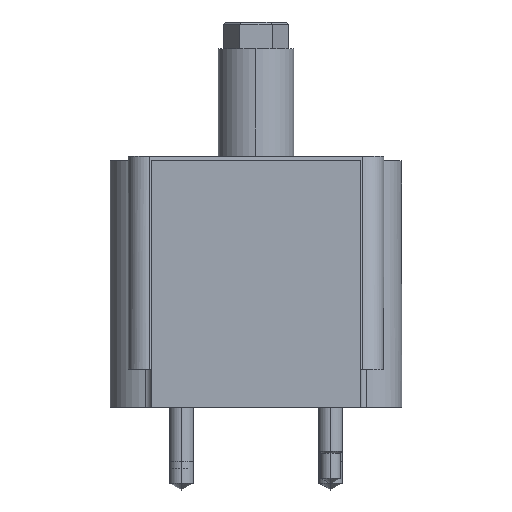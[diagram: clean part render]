
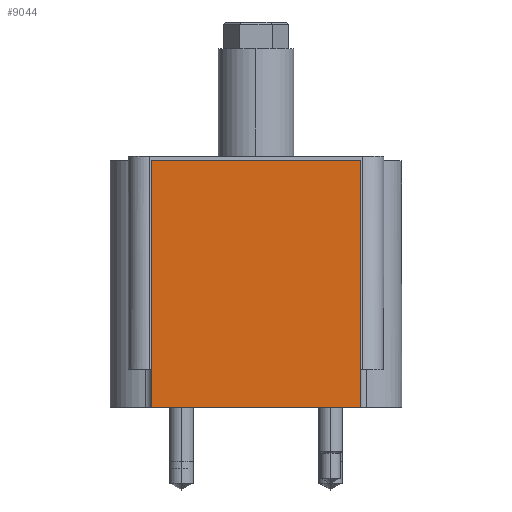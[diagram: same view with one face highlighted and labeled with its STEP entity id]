
A CAD part, left-side view. The second image highlights one B-rep face of the part: STEP entity #9044.
In plain terms, the highlighted planar face has unit normal (-1, 0, 0).
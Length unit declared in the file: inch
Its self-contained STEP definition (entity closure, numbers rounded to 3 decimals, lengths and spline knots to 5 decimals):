
#259 = VECTOR ( 'NONE', #14952, 39.37008 ) ;
#1415 = VERTEX_POINT ( 'NONE', #8717 ) ;
#2875 = PLANE ( 'NONE',  #17344 ) ;
#3548 = ORIENTED_EDGE ( 'NONE', *, *, #12612, .T. ) ;
#3947 = VECTOR ( 'NONE', #10475, 39.37008 ) ;
#4108 = CARTESIAN_POINT ( 'NONE',  ( -3.315, -1.37749, 3.25 ) ) ;
#4167 = CARTESIAN_POINT ( 'NONE',  ( -3.315, -1.37749, 0. ) ) ;
#4567 = DIRECTION ( 'NONE',  ( 0., -1., 0. ) ) ;
#4800 = DIRECTION ( 'NONE',  ( 0., 0., 1. ) ) ;
#4883 = LINE ( 'NONE', #17498, #3947 ) ;
#4926 = LINE ( 'NONE', #16317, #7493 ) ;
#6437 = VERTEX_POINT ( 'NONE', #4108 ) ;
#6528 = ORIENTED_EDGE ( 'NONE', *, *, #8198, .T. ) ;
#6776 = DIRECTION ( 'NONE',  ( 0., 0., 1. ) ) ;
#6808 = ORIENTED_EDGE ( 'NONE', *, *, #17441, .T. ) ;
#7327 = VECTOR ( 'NONE', #6776, 39.37008 ) ;
#7416 = CARTESIAN_POINT ( 'NONE',  ( -3.315, 0., 0. ) ) ;
#7493 = VECTOR ( 'NONE', #4567, 39.37008 ) ;
#7686 = EDGE_CURVE ( 'NONE', #15933, #6437, #16863, .T. ) ;
#8198 = EDGE_CURVE ( 'NONE', #14134, #15933, #4926, .T. ) ;
#8717 = CARTESIAN_POINT ( 'NONE',  ( -3.315, 1.37749, 3.25 ) ) ;
#9044 = ADVANCED_FACE ( 'NONE', ( #15643 ), #2875, .T. ) ;
#10198 = EDGE_LOOP ( 'NONE', ( #16420, #3548, #6808, #6528 ) ) ;
#10475 = DIRECTION ( 'NONE',  ( 0., 0., -1. ) ) ;
#12612 = EDGE_CURVE ( 'NONE', #6437, #1415, #13735, .T. ) ;
#13085 = CARTESIAN_POINT ( 'NONE',  ( -3.315, -1.37749, 0. ) ) ;
#13735 = LINE ( 'NONE', #16729, #259 ) ;
#14134 = VERTEX_POINT ( 'NONE', #15491 ) ;
#14952 = DIRECTION ( 'NONE',  ( 0., 1., 0. ) ) ;
#15491 = CARTESIAN_POINT ( 'NONE',  ( -3.315, 1.37749, 0. ) ) ;
#15643 = FACE_OUTER_BOUND ( 'NONE', #10198, .T. ) ;
#15933 = VERTEX_POINT ( 'NONE', #13085 ) ;
#16101 = DIRECTION ( 'NONE',  ( -1., 0., 0. ) ) ;
#16317 = CARTESIAN_POINT ( 'NONE',  ( -3.315, 0., 0. ) ) ;
#16420 = ORIENTED_EDGE ( 'NONE', *, *, #7686, .T. ) ;
#16729 = CARTESIAN_POINT ( 'NONE',  ( -3.315, 0., 3.25 ) ) ;
#16863 = LINE ( 'NONE', #4167, #7327 ) ;
#17344 = AXIS2_PLACEMENT_3D ( 'NONE', #7416, #16101, #4800 ) ;
#17441 = EDGE_CURVE ( 'NONE', #1415, #14134, #4883, .T. ) ;
#17498 = CARTESIAN_POINT ( 'NONE',  ( -3.315, 1.37749, 0. ) ) ;
